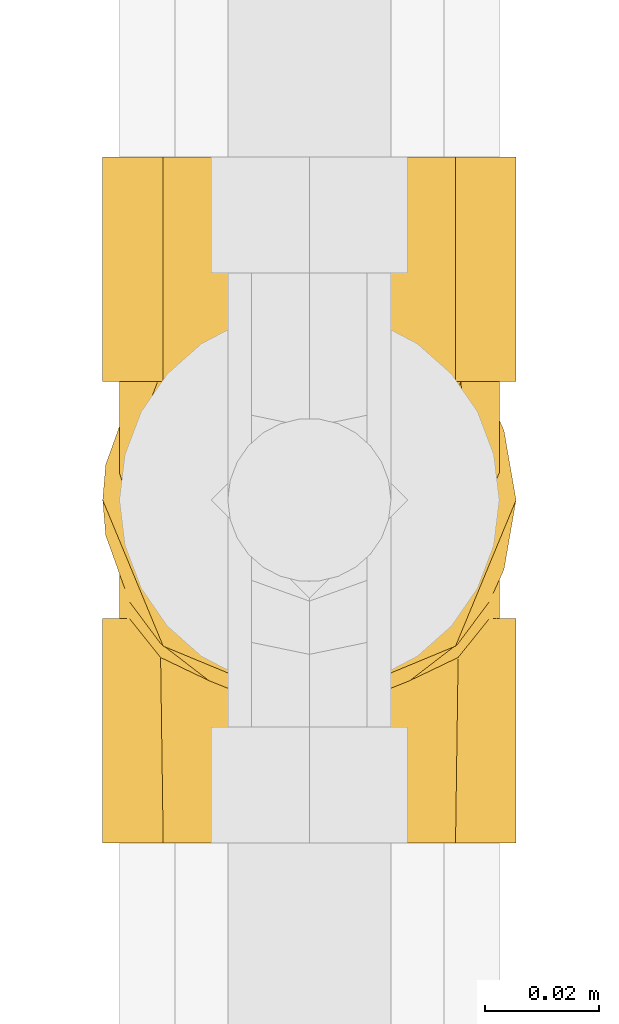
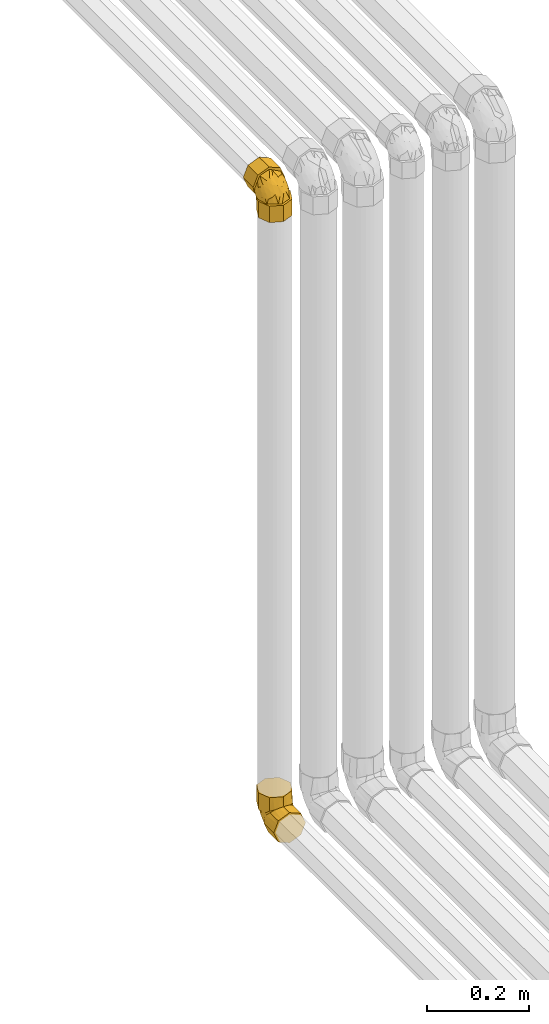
# One storey, part 231 of 652: 2 coverings.
"""IFC2X3 building model written with IfcOpenShell, lengths in millimetres."""

from ifc_helpers import new_model, entity, si_unit, converted_unit, direction, frame, origin, place, context, subcontext, project, spatial, faceted_brep, material, type_object, element, save


model = new_model("IFC2X3")

# Units and contexts
model_context = context("Model", 3, precision=0.01, world=frame((0.0, 0.0, 308426.39999999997)), true_north=direction((6.123233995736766e-17, 1.0)))
plan_context = context("Plan", 3, precision=0.01, world=frame((0.0, 0.0, 308426.39999999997)), true_north=direction((6.123233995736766e-17, 1.0)))
body_context = subcontext(model_context, "Body", "Model", "MODEL_VIEW")
ifc_project = project(units=[si_unit("LENGTHUNIT", "METRE", prefix="MILLI"), si_unit("AREAUNIT", "SQUARE_METRE"), si_unit("VOLUMEUNIT", "CUBIC_METRE"), converted_unit("PLANEANGLEUNIT", "DEGREE", entity("IfcPlaneAngleMeasure", 0.017453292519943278), si_unit("PLANEANGLEUNIT", "RADIAN"), dimensions=[0, 0, 0, 0, 0, 0, 0])], contexts=[model_context, plan_context])

# Site, building, storey
site_placement = place(None, origin())
site = spatial("IfcSite", under=ifc_project, at=site_placement, Name="Default", CompositionType="ELEMENT")
building_placement = place(site_placement, origin())
building = spatial("IfcBuilding", under=site, at=building_placement, CompositionType="ELEMENT")
storey_placement = place(building_placement, frame((0.0, 0.0, 1730.6999999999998)))
storey = spatial("IfcBuildingStorey", under=building, at=storey_placement, Name="EG_Produktion_FFB", CompositionType="ELEMENT", Elevation=1730.6999999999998)

# Coverings
ifc_material = material(Name="Dämmung - Armaflex-Schlauch")
covering_type = type_object("IfcCoveringType", Name="Rohrdämmung außen:Armaflex-Schlauch", PredefinedType="INSULATION")
covering_1_placement = place(storey_placement, frame((76442.20272776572, 51577.97760396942, 2362.2027277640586)))
element("IfcCovering", 1, at=covering_1_placement, inside=storey, type_object=covering_type, material=ifc_material, Name="Rohrdämmung außen:Armaflex-Schlauch", ObjectType="Rohrdämmung außen:Armaflex-Schlauch", PredefinedType="INSULATION", context=body_context, shape_type="Brep", body=[
    faceted_brep([(3.715783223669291, 39.259249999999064, 50.005339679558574), (6.296879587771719, 39.259249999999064, 55.6385184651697), (4.988212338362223, 39.259249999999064, 49.19061548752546), (4.509772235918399, 39.259249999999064, 42.62645720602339), (7.8789883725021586, 39.259249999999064, 34.865778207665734), (11.248204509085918, 39.259249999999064, 27.105099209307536), (13.864245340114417, 39.259249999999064, 21.079290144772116), (16.480286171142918, 39.259249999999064, 15.053481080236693), (27.138779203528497, 39.259249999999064, 11.038197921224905), (37.79727223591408, 39.259249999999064, 7.022914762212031), (44.42687530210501, 39.259249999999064, 10.459541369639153), (51.0564783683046, 39.259249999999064, 13.896167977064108), (57.68608143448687, 39.259249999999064, 17.332794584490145), (64.31568450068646, 39.259249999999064, 20.76942119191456), (66.42763594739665, 39.259249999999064, 27.588803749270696), (68.53958739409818, 39.259249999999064, 34.40818630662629), (71.08477223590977, 39.259249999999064, 42.62645720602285), (70.60633213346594, 39.259249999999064, 49.19061548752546), (69.29766488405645, 39.259249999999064, 55.6385184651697), (73.46326541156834, 39.259249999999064, 44.00386025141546), (73.99927223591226, 39.259249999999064, 37.797272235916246), (70.84694562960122, 39.259249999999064, 30.186882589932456), (68.69761208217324, 39.259249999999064, 24.99793238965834), (66.04678200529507, 39.259249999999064, 18.59826246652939), (63.39595192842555, 39.259249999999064, 12.19859254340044), (56.996282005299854, 39.259249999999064, 9.547762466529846), (50.596612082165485, 39.259249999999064, 6.896932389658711), (44.19694215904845, 39.259249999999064, 4.246102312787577), (37.79727223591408, 39.259249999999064, 1.5952722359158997), (30.186882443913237, 39.259249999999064, 4.74759890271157), (24.99793238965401, 39.259249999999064, 6.89693238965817), (18.598262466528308, 39.259249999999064, 9.547762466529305), (12.198592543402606, 39.259249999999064, 12.19859254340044), (9.547762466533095, 39.259249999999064, 18.59826246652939), (6.896932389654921, 39.259249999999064, 24.99793238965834), (4.246102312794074, 39.259249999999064, 31.397602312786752), (1.5952722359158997, 39.259249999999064, 37.797272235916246), (63.39595192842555, 0.0, 63.39595192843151), (56.996282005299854, 0.0, 66.04678200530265), (50.596612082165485, 0.0, 68.69761208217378), (44.196942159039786, 0.0, 71.34844215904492), (37.79727223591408, 0.0, 73.99927223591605), (31.39760231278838, 0.0, 71.34844215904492), (24.997932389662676, 0.0, 68.69761208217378), (18.598262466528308, 0.0, 66.04678200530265), (12.198592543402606, 0.0, 63.39595192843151), (9.547762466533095, 0.0, 56.99628200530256), (6.896932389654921, 0.0, 50.59661208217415), (4.2461023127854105, 0.0, 44.1969421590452), (1.5952722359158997, 0.0, 37.797272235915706), (4.2461023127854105, 0.0, 31.397602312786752), (6.896932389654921, 0.0, 24.99793238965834), (9.547762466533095, 0.0, 18.59826246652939), (12.198592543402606, 0.0, 12.19859254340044), (22.5764918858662, 0.0, 7.899925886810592), (30.18688206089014, 0.0, 4.747599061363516), (37.79727223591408, 0.0, 1.5952722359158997), (44.196942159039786, 0.0, 4.246102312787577), (50.596612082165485, 0.0, 6.89693238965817), (56.996282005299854, 0.0, 9.547762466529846), (63.39595192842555, 0.0, 12.19859254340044), (67.69461861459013, 0.0, 22.57649195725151), (70.84694542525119, 0.0, 30.18688209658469), (73.99927223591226, 0.0, 37.797272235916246), (71.34844215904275, 0.0, 44.1969421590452), (68.69761208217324, 0.0, 50.59661208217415), (66.04678200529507, 0.0, 56.99628200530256), (63.85372723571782, 32.46668914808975, 62.92983988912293), (47.14326463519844, 25.075941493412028, 72.7720807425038), (55.41836482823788, 28.426678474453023, 69.42134376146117), (37.79727223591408, 23.848750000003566, 73.99927223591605), (11.740817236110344, 32.46668914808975, 62.92983988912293), (28.451279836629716, 25.075941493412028, 72.7720807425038), (20.176179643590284, 28.426678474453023, 69.42134376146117), (1.5952722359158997, 60.05075000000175, 58.588772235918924), (4.7475989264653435, 67.66113984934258, 58.588772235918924), (6.896932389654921, 72.85008984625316, 58.588772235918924), (9.547762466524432, 79.24975976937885, 58.588772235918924), (12.198592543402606, 85.64942969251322, 58.588772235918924), (18.598262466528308, 88.30025976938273, 58.588772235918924), (24.997932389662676, 90.9510898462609, 58.588772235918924), (31.39760231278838, 93.60191992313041, 58.588772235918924), (37.79727223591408, 96.25274999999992, 58.588772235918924), (45.40766163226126, 93.1004234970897, 58.588772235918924), (50.596612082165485, 90.9510898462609, 58.588772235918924), (56.996282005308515, 88.30025976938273, 58.588772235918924), (63.39595192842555, 85.64942969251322, 58.588772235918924), (66.04678200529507, 79.24975976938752, 58.588772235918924), (68.69761208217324, 72.85008984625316, 58.588772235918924), (71.34844215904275, 66.45041992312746, 58.588772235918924), (73.99927223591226, 60.05075000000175, 58.588772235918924), (71.87921900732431, 47.8439605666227, 58.588772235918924), (69.29766488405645, 42.20950377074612, 58.588772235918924), (70.60633213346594, 48.65740674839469, 58.588772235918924), (71.08477223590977, 55.22156502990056, 58.588772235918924), (67.71445911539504, 62.98153911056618, 58.58877223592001), (64.34414599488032, 70.74151319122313, 58.58877223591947), (61.72519243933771, 76.77152019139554, 58.58877223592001), (59.10623888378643, 82.80152719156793, 58.588772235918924), (48.45175555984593, 86.8133173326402, 58.588772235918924), (37.79727223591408, 90.82510747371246, 58.588772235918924), (31.165885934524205, 87.3860017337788, 58.588772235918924), (24.534499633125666, 83.94689599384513, 58.58877223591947), (17.903113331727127, 80.50779025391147, 58.58877223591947), (11.271727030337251, 77.0686845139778, 58.588772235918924), (9.162676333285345, 70.25457765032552, 58.58877223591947), (7.0536256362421, 63.440470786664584, 58.58877223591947), (4.509772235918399, 55.22156502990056, 58.588772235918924), (4.988212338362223, 48.65740674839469, 58.588772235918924), (6.296879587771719, 42.20950377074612, 58.588772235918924), (2.131188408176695, 53.84468293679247, 58.588772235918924), (63.39595192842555, 85.64942969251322, 97.84802223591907), (53.01805201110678, 89.94809658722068, 97.84802223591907), (45.407662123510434, 93.10042329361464, 97.84802223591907), (37.79727223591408, 96.25274999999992, 97.84802223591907), (31.39760231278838, 93.60191992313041, 97.84802223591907), (24.997932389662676, 90.9510898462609, 97.84802223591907), (18.598262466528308, 88.30025976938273, 97.84802223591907), (12.198592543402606, 85.64942969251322, 97.84802223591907), (7.89992589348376, 75.27153036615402, 97.84802223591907), (4.74759906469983, 67.66114018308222, 97.84802223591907), (1.5952722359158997, 60.05075000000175, 97.84802223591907), (4.246102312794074, 53.65108007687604, 97.84802223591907), (6.896932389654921, 47.25141015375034, 97.84802223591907), (9.547762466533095, 40.851740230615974, 97.84802223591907), (12.198592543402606, 34.45207030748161, 97.84802223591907), (18.598262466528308, 31.801240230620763, 97.84802223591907), (24.997932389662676, 29.150410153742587, 97.84802223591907), (31.39760231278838, 26.499580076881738, 97.84802223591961), (37.79727223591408, 23.848750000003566, 97.84802223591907), (44.196942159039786, 26.499580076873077, 97.84802223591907), (50.596612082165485, 29.150410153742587, 97.84802223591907), (56.996282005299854, 31.801240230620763, 97.84802223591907), (63.39595192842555, 34.45207030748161, 97.84802223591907), (66.04678200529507, 40.851740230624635, 97.84802223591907), (68.69761208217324, 47.25141015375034, 97.84802223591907), (71.34844215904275, 53.65108007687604, 97.84802223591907), (73.99927223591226, 60.05075000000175, 97.84802223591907), (71.34844215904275, 66.45041992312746, 97.84802223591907), (68.69761208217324, 72.85008984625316, 97.84802223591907), (66.04678200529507, 79.24975976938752, 97.84802223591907), (63.85736541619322, 34.92195481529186, 65.37871062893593), (11.737179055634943, 34.92195481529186, 65.37871062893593), (68.41675007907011, 49.210183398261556, 33.374653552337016), (70.09494488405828, 54.63531521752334, 44.30542179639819), (71.08477223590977, 48.39608948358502, 49.45193275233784), (71.08477223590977, 43.978455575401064, 46.15183622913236), (71.08477223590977, 51.69618583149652, 53.86956642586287), (68.18497914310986, 65.06955237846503, 48.58098457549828), (54.93584498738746, 66.14940844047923, 26.96469372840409), (47.55789547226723, 58.59034686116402, 17.09452525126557), (46.96971299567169, 73.81910229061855, 29.785099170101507), (61.16915130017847, 49.86476535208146, 21.419266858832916), (62.09740281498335, 59.52853294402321, 28.9127065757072), (65.36649404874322, 50.389767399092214, 27.50780353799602), (53.32066831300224, 79.53115199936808, 41.8017898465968), (61.51946830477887, 72.05314656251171, 41.47102568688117), (65.29725071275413, 67.4364402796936, 42.91617535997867), (54.89550280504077, 53.71476365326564, 17.9839159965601), (45.8214932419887, 83.05038596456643, 42.158493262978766), (37.79727223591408, 71.9339064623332, 25.914115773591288), (37.79727223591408, 53.5048282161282, 15.259147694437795), (37.79727223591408, 82.58887389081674, 44.34319289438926), (67.18830204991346, 59.256858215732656, 38.21270924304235), (4.509772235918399, 48.39608948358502, 49.45193275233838), (4.509772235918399, 43.97845557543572, 46.15183622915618), (4.509772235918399, 51.69618583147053, 53.86956642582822), (5.499665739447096, 53.536207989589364, 43.206149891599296), (13.497052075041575, 68.93208500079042, 38.31563745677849), (14.077594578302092, 56.377531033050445, 25.792129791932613), (10.298384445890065, 54.931613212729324, 30.409425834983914), (20.65892246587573, 70.89302392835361, 31.709112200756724), (22.28882336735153, 56.04646412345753, 18.307811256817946), (28.624479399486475, 68.07919867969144, 24.043586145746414), (29.784989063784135, 55.729373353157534, 14.816732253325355), (7.409619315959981, 49.26685337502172, 32.77820674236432), (28.033804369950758, 80.76404119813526, 39.27595239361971), (14.417993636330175, 76.4220800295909, 47.986245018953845), (10.227732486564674, 70.3405712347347, 47.459752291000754), (20.692178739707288, 79.86412378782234, 44.14168710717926), (7.176889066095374, 64.46975673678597, 48.63619855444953), (8.406458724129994, 59.635610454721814, 38.59088627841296)], [[[0, 1, 2, 3, 4, 5, 6, 7, 8, 9, 10, 11, 12, 13, 14, 15, 16, 17, 18, 19, 20, 21, 22, 23, 24, 25, 26, 27, 28, 29, 30, 31, 32, 33, 34, 35, 36]], [[37, 38, 39, 40, 41, 42, 43, 44, 45, 46, 47, 48, 49, 50, 51, 52, 53, 54, 55, 56, 57, 58, 59, 60, 61, 62, 63, 64, 65, 66]], [[38, 37, 67]], [[66, 67, 37]], [[67, 66, 18]], [[68, 39, 69]], [[69, 39, 38]], [[69, 38, 67]], [[65, 19, 18]], [[20, 19, 63]], [[40, 70, 41]], [[19, 65, 64, 63]], [[40, 39, 68]], [[70, 40, 68]], [[66, 65, 18]], [[63, 62, 61, 60, 24, 23, 22, 21, 20]], [[24, 60, 59, 58, 57, 56, 28, 27, 26, 25]], [[29, 28, 56, 55, 54, 53, 32, 31, 30]], [[32, 53, 52, 51, 50, 49, 36, 35, 34, 33]], [[71, 1, 46]], [[0, 47, 1]], [[1, 47, 46]], [[72, 43, 42]], [[71, 46, 45]], [[44, 71, 45]], [[36, 48, 0]], [[70, 42, 41]], [[48, 47, 0]], [[73, 43, 72]], [[71, 44, 73]], [[42, 70, 72]], [[48, 36, 49]], [[44, 43, 73]], [[74, 75, 76, 77, 78, 79, 80, 81, 82, 83, 84, 85, 86, 87, 88, 89, 90, 91, 92, 93, 94, 95, 96, 97, 98, 99, 100, 101, 102, 103, 104, 105, 106, 107, 108, 109, 110]], [[111, 112, 113, 114, 115, 116, 117, 118, 119, 120, 121, 122, 123, 124, 125, 126, 127, 128, 129, 130, 131, 132, 133, 134, 135, 136, 137, 138, 139, 140]], [[114, 113, 112, 111, 86, 85, 84, 83, 82]], [[86, 111, 140, 139, 138, 137, 90, 89, 88, 87]], [[141, 92, 134]], [[91, 135, 92]], [[68, 131, 130]], [[134, 133, 141]], [[132, 141, 133]], [[136, 135, 91]], [[90, 136, 91]], [[70, 130, 129]], [[136, 90, 137]], [[69, 131, 68]], [[141, 132, 69]], [[130, 70, 68]], [[92, 135, 134]], [[132, 131, 69]], [[126, 125, 142]], [[124, 142, 125]], [[142, 124, 109]], [[72, 127, 73]], [[73, 127, 126]], [[73, 126, 142]], [[123, 110, 109]], [[74, 110, 121]], [[128, 70, 129]], [[110, 123, 122, 121]], [[128, 127, 72]], [[70, 128, 72]], [[124, 123, 109]], [[75, 74, 121, 120, 119, 118, 78, 77, 76]], [[78, 118, 117, 116, 115, 114, 82, 81, 80, 79]], [[15, 143, 144]], [[144, 145, 146, 16]], [[144, 94, 147, 145]], [[96, 95, 148]], [[149, 150, 151]], [[152, 153, 154]], [[149, 155, 156]], [[153, 156, 157]], [[152, 158, 153]], [[16, 15, 144]], [[151, 159, 155]], [[96, 148, 157]], [[151, 155, 149]], [[153, 149, 156]], [[156, 97, 157]], [[160, 159, 151]], [[98, 156, 155]], [[99, 98, 155]], [[160, 150, 161]], [[99, 159, 100]], [[159, 160, 162, 100]], [[160, 151, 150]], [[150, 11, 10]], [[150, 149, 158]], [[10, 161, 150]], [[9, 161, 10]], [[99, 155, 159]], [[143, 15, 14]], [[152, 13, 12]], [[158, 12, 11]], [[150, 158, 11]], [[153, 158, 149]], [[158, 152, 12]], [[154, 163, 143]], [[154, 143, 14]], [[154, 13, 152]], [[143, 163, 144]], [[148, 144, 163]], [[94, 144, 95]], [[154, 14, 13]], [[163, 154, 153]], [[144, 148, 95]], [[157, 148, 163]], [[153, 157, 163]], [[156, 98, 97]], [[96, 157, 97]], [[18, 17, 145]], [[67, 141, 69]], [[141, 67, 18]], [[17, 16, 146, 145]], [[147, 94, 93, 145]], [[141, 18, 92]], [[93, 92, 145]], [[92, 18, 145]], [[164, 1, 109]], [[2, 164, 165, 3]], [[164, 2, 1]], [[1, 71, 142]], [[142, 109, 1]], [[108, 107, 166, 164]], [[108, 164, 109]], [[142, 71, 73]], [[107, 106, 167]], [[168, 169, 170]], [[171, 172, 169]], [[173, 172, 171]], [[167, 164, 166, 107]], [[173, 174, 172]], [[175, 170, 5]], [[168, 171, 169]], [[167, 3, 165, 164]], [[176, 173, 171]], [[177, 168, 178]], [[5, 4, 175]], [[177, 179, 168]], [[106, 180, 167]], [[169, 6, 170]], [[160, 174, 173]], [[7, 169, 172]], [[8, 7, 172]], [[160, 176, 162]], [[8, 174, 9]], [[174, 160, 161, 9]], [[160, 173, 176]], [[176, 102, 101]], [[176, 171, 179]], [[101, 162, 176]], [[100, 162, 101]], [[8, 172, 174]], [[180, 106, 105]], [[177, 104, 103]], [[179, 103, 102]], [[176, 179, 102]], [[168, 179, 171]], [[179, 177, 103]], [[178, 181, 180]], [[178, 180, 105]], [[178, 104, 177]], [[180, 181, 167]], [[175, 167, 181]], [[3, 167, 4]], [[178, 105, 104]], [[181, 178, 168]], [[167, 175, 4]], [[170, 175, 181]], [[168, 170, 181]], [[169, 7, 6]], [[5, 170, 6]]]),
])
covering_2_placement = place(storey_placement, frame((76442.20272776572, 51600.23108173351, 3839.949249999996)))
element("IfcCovering", 2, at=covering_2_placement, inside=storey, type_object=covering_type, material=ifc_material, Name="Rohrdämmung außen:Armaflex-Schlauch", ObjectType="Rohrdämmung außen:Armaflex-Schlauch", PredefinedType="INSULATION", context=body_context, shape_type="Brep", body=[
    faceted_brep([(71.87876124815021, 50.00533967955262, 39.25925000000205), (69.29766488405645, 55.6385184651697, 39.25925000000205), (70.60633213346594, 49.190615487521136, 39.25925000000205), (71.08477223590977, 42.62645720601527, 39.25925000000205), (67.71555609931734, 34.8657782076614, 39.25925000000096), (64.34633996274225, 27.105099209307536, 39.25925000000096), (61.730299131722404, 21.079290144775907, 39.25925000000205), (59.11425830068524, 15.053481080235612, 39.25925000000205), (48.455765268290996, 11.03819792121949, 39.25925000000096), (37.79727223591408, 7.022914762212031, 39.25925000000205), (31.16766916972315, 10.459541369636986, 39.25925000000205), (24.53806610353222, 13.89616797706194, 39.25925000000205), (17.908463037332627, 17.332794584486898, 39.25925000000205), (11.278859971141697, 20.769421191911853, 39.25925000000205), (9.166908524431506, 27.588803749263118, 39.25925000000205), (7.054957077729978, 34.408186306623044, 39.25925000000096), (4.509772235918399, 42.62645720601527, 39.25925000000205), (4.988212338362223, 49.190615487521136, 39.25925000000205), (6.296879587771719, 55.6385184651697, 39.25925000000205), (2.1312790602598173, 44.003860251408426, 39.25925000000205), (1.5952722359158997, 37.79727223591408, 39.25925000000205), (4.747598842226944, 30.186882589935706, 39.25925000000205), (6.896932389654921, 24.997932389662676, 39.25925000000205), (9.547762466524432, 18.598262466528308, 39.25925000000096), (12.198592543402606, 12.198592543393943, 39.25925000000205), (18.598262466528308, 9.547762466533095, 39.25925000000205), (24.997932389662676, 6.896932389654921, 39.25925000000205), (31.39760231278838, 4.246102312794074, 39.25925000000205), (37.79727223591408, 1.5952722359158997, 39.25925000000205), (45.407662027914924, 4.74759890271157, 39.25925000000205), (50.596612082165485, 6.896932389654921, 39.25925000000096), (56.996282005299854, 9.547762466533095, 39.25925000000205), (63.39595192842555, 12.198592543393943, 39.25925000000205), (66.04678200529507, 18.598262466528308, 39.25925000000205), (68.69761208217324, 24.997932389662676, 39.25925000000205), (71.34844215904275, 31.39760231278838, 39.25925000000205), (73.99927223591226, 37.79727223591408, 39.25925000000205), (12.198592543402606, 63.39595192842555, 0.0), (18.598262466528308, 66.04678200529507, 0.0), (24.997932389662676, 68.69761208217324, 0.0), (31.39760231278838, 71.34844215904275, 0.0), (37.79727223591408, 73.99927223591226, 0.0), (44.196942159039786, 71.3484421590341, 0.0), (50.596612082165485, 68.69761208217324, 0.0), (56.996282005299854, 66.04678200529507, 0.0), (63.39595192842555, 63.39595192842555, 0.0), (66.04678200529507, 56.996282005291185, 0.0), (68.69761208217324, 50.596612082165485, 0.0), (71.34844215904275, 44.196942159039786, 0.0), (73.99927223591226, 37.79727223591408, 0.0), (71.3484421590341, 31.39760231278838, 0.0), (68.69761208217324, 24.997932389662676, 0.0), (66.04678200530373, 18.598262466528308, 0.0), (63.39595192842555, 12.198592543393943, 0.0), (53.01805258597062, 7.899925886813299, 0.0), (45.40766241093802, 4.747599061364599, 0.0), (37.79727223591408, 1.5952722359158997, 0.0), (31.39760231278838, 4.2461023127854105, 0.0), (24.99793238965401, 6.896932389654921, 0.0), (18.598262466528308, 9.547762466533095, 0.0), (12.198592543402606, 12.198592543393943, 0.0), (7.899925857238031, 22.576491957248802, 0.0), (4.7475990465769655, 30.186882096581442, 0.0), (1.5952722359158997, 37.79727223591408, 0.0), (4.246102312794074, 44.196942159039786, 0.0), (6.896932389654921, 50.596612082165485, 0.0), (9.547762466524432, 56.996282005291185, 0.0), (11.740817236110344, 62.92983988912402, 32.466689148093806), (28.451279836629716, 72.7720807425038, 25.07594149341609), (20.176179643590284, 69.42134376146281, 28.42667847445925), (37.79727223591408, 73.99927223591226, 23.848750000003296), (63.85372723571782, 62.92983988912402, 32.466689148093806), (47.14326463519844, 72.7720807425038, 25.07594149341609), (55.41836482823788, 69.42134376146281, 28.42667847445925), (73.99927223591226, 58.588772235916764, 60.05075000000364), (70.84694554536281, 58.588772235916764, 67.66113984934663), (68.69761208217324, 58.588772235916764, 72.85008984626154), (66.04678200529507, 58.588772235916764, 79.24975976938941), (63.39595192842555, 58.588772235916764, 85.64942969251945), (56.996282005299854, 58.588772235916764, 88.30025976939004), (50.596612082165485, 58.588772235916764, 90.95108984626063), (44.196942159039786, 58.588772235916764, 93.60191992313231), (37.79727223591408, 58.588772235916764, 96.25275000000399), (30.18688283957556, 58.588772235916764, 93.10042349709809), (24.997932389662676, 58.588772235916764, 90.95108984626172), (18.598262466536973, 58.588772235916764, 88.30025976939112), (12.198592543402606, 58.588772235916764, 85.64942969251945), (9.547762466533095, 58.588772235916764, 79.2497597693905), (6.896932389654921, 58.588772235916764, 72.85008984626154), (4.246102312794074, 58.588772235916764, 66.4504199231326), (1.5952722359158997, 58.588772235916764, 60.05075000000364), (3.7153254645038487, 58.588772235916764, 47.84396056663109), (6.296879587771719, 58.588772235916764, 42.209503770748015), (4.988212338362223, 58.588772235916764, 48.65740674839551), (4.509772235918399, 58.588772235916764, 55.22156502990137), (7.88008535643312, 58.588772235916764, 62.98153911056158), (11.250398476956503, 58.588772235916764, 70.74151319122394), (13.869352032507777, 58.588772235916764, 76.77152019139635), (16.488305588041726, 58.588772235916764, 82.80152719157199), (27.142788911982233, 58.588772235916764, 86.81331733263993), (37.79727223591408, 58.588772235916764, 90.82510747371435), (44.42865853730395, 58.588772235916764, 87.38600173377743), (51.06004483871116, 58.588772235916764, 83.94689599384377), (57.69143114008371, 58.588772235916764, 80.5077902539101), (64.32281744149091, 58.588772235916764, 77.06868451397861), (66.43186813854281, 58.588772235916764, 70.25457765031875), (68.54091883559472, 58.588772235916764, 63.440470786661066), (71.08477223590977, 58.588772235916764, 55.22156502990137), (70.60633213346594, 58.588772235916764, 48.65740674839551), (69.29766488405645, 58.588772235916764, 42.209503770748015), (73.46335606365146, 58.588772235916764, 53.8446829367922), (4.2461023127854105, 97.84802223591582, 66.4504199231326), (6.896932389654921, 97.84802223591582, 72.85008984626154), (9.547762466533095, 97.84802223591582, 79.2497597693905), (12.198592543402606, 97.84802223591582, 85.64942969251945), (22.576492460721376, 97.84802223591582, 89.94809658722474), (30.186882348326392, 97.84802223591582, 93.10042329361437), (37.79727223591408, 97.84802223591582, 96.25275000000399), (44.196942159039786, 97.84802223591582, 93.60191992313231), (50.596612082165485, 97.84802223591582, 90.95108984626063), (56.996282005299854, 97.84802223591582, 88.30025976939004), (63.39595192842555, 97.84802223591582, 85.64942969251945), (67.6946185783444, 97.84802223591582, 75.27153036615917), (70.84694540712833, 97.84802223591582, 67.66114018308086), (73.99927223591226, 97.84802223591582, 60.05075000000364), (71.34844215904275, 97.84802223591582, 53.65108007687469), (68.69761208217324, 97.84802223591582, 47.25141015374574), (66.04678200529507, 97.84802223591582, 40.85174023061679), (63.39595192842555, 97.84802223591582, 34.45207030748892), (56.996282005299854, 97.84802223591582, 31.801240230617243), (50.596612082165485, 97.84802223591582, 29.150410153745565), (44.19694215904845, 97.84802223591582, 26.49958007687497), (37.79727223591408, 97.84802223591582, 23.84875000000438), (31.39760231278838, 97.84802223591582, 26.49958007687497), (24.99793238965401, 97.84802223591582, 29.150410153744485), (18.598262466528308, 97.84802223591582, 31.80124023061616), (12.198592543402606, 97.84802223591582, 34.45207030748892), (9.547762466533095, 97.84802223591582, 40.85174023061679), (6.896932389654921, 97.84802223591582, 47.25141015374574), (4.2461023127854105, 97.84802223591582, 53.65108007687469), (1.5952722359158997, 97.84802223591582, 60.05075000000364), (11.737179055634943, 65.37871062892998, 34.92195481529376), (63.85736541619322, 65.37871062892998, 34.92195481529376), (7.177794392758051, 33.37465355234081, 49.210183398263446), (5.499599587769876, 44.30542179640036, 54.6353152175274), (4.509772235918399, 49.45193275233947, 48.39608948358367), (4.509772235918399, 46.151836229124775, 43.978455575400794), (4.509772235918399, 53.869566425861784, 51.69618583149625), (7.409565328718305, 48.580984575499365, 65.069552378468), (20.658699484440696, 26.964693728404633, 66.14940844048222), (28.03664899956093, 17.094525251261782, 58.590346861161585), (28.624831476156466, 29.78509917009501, 73.81910229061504), (14.425393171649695, 21.419266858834, 49.86476535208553), (13.497141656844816, 28.912706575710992, 59.528532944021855), (10.228050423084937, 27.507803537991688, 50.38976739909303), (22.27387615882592, 41.80178984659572, 79.53115199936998), (14.075076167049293, 41.47102568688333, 72.05314656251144), (10.297293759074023, 42.91617535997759, 67.43644027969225), (20.69904166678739, 17.983915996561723, 53.71476365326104), (29.773051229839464, 42.15849326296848, 83.05038596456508), (37.79727223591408, 25.914115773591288, 71.93390646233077), (37.79727223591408, 15.259147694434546, 53.50482821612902), (37.79727223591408, 44.343192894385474, 82.5888738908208), (8.406242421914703, 38.212709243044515, 59.25685821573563), (71.08477223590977, 49.45193275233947, 48.39608948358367), (71.08477223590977, 46.15183622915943, 43.97845557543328), (71.08477223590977, 53.86956642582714, 51.69618583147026), (70.09487873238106, 43.20614989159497, 53.53620798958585), (62.097492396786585, 38.3156374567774, 68.93208500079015), (61.51694989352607, 25.792129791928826, 56.37753103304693), (65.2961600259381, 30.40942583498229, 54.93161321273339), (54.93562200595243, 31.709112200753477, 70.89302392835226), (53.30572110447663, 18.307811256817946, 56.04646412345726), (46.97006507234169, 24.043586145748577, 68.07919867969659), (45.809555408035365, 14.81673225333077, 55.72937335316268), (68.18492515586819, 32.77820674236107, 49.266853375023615), (47.5607401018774, 39.27595239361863, 80.76404119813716), (61.176550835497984, 47.98624501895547, 76.42208002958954), (65.36681198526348, 47.459752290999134, 70.34057123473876), (54.90236573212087, 44.14168710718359, 79.86412378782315), (68.41765540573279, 48.6361985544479, 64.46975673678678), (67.18808574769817, 38.59088627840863, 59.63561045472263)], [[[0, 1, 2, 3, 4, 5, 6, 7, 8, 9, 10, 11, 12, 13, 14, 15, 16, 17, 18, 19, 20, 21, 22, 23, 24, 25, 26, 27, 28, 29, 30, 31, 32, 33, 34, 35, 36]], [[37, 38, 39, 40, 41, 42, 43, 44, 45, 46, 47, 48, 49, 50, 51, 52, 53, 54, 55, 56, 57, 58, 59, 60, 61, 62, 63, 64, 65, 66]], [[38, 37, 67]], [[66, 67, 37]], [[67, 66, 18]], [[68, 39, 69]], [[69, 39, 38]], [[69, 38, 67]], [[65, 19, 18]], [[20, 19, 63]], [[40, 70, 41]], [[19, 65, 64, 63]], [[40, 39, 68]], [[70, 40, 68]], [[66, 65, 18]], [[63, 62, 61, 60, 24, 23, 22, 21, 20]], [[24, 60, 59, 58, 57, 56, 28, 27, 26, 25]], [[29, 28, 56, 55, 54, 53, 32, 31, 30]], [[32, 53, 52, 51, 50, 49, 36, 35, 34, 33]], [[71, 1, 46]], [[0, 47, 1]], [[1, 47, 46]], [[72, 43, 42]], [[71, 46, 45]], [[44, 71, 45]], [[36, 48, 0]], [[70, 42, 41]], [[48, 47, 0]], [[73, 43, 72]], [[71, 44, 73]], [[42, 70, 72]], [[48, 36, 49]], [[44, 43, 73]], [[74, 75, 76, 77, 78, 79, 80, 81, 82, 83, 84, 85, 86, 87, 88, 89, 90, 91, 92, 93, 94, 95, 96, 97, 98, 99, 100, 101, 102, 103, 104, 105, 106, 107, 108, 109, 110]], [[111, 112, 113, 114, 115, 116, 117, 118, 119, 120, 121, 122, 123, 124, 125, 126, 127, 128, 129, 130, 131, 132, 133, 134, 135, 136, 137, 138, 139, 140]], [[117, 116, 115, 114, 86, 85, 84, 83, 82]], [[86, 114, 113, 112, 111, 140, 90, 89, 88, 87]], [[141, 92, 137]], [[91, 138, 92]], [[68, 134, 133]], [[137, 136, 141]], [[135, 141, 136]], [[139, 138, 91]], [[90, 139, 91]], [[70, 133, 132]], [[139, 90, 140]], [[69, 134, 68]], [[141, 135, 69]], [[133, 70, 68]], [[92, 138, 137]], [[135, 134, 69]], [[129, 128, 142]], [[127, 142, 128]], [[142, 127, 109]], [[72, 130, 73]], [[73, 130, 129]], [[73, 129, 142]], [[126, 110, 109]], [[74, 110, 124]], [[131, 70, 132]], [[110, 126, 125, 124]], [[131, 130, 72]], [[70, 131, 72]], [[127, 126, 109]], [[75, 74, 124, 123, 122, 121, 78, 77, 76]], [[78, 121, 120, 119, 118, 117, 82, 81, 80, 79]], [[15, 143, 144]], [[144, 145, 146, 16]], [[144, 94, 147, 145]], [[96, 95, 148]], [[149, 150, 151]], [[152, 153, 154]], [[149, 155, 156]], [[153, 156, 157]], [[152, 158, 153]], [[16, 15, 144]], [[151, 159, 155]], [[96, 148, 157]], [[151, 155, 149]], [[153, 149, 156]], [[156, 97, 157]], [[160, 159, 151]], [[98, 156, 155]], [[99, 98, 155]], [[160, 150, 161]], [[99, 159, 100]], [[159, 160, 162, 100]], [[160, 151, 150]], [[150, 11, 10]], [[150, 149, 158]], [[10, 161, 150]], [[9, 161, 10]], [[99, 155, 159]], [[143, 15, 14]], [[152, 13, 12]], [[158, 12, 11]], [[150, 158, 11]], [[153, 158, 149]], [[158, 152, 12]], [[154, 163, 143]], [[154, 143, 14]], [[154, 13, 152]], [[143, 163, 144]], [[148, 144, 163]], [[94, 144, 95]], [[154, 14, 13]], [[163, 154, 153]], [[144, 148, 95]], [[157, 148, 163]], [[153, 157, 163]], [[156, 98, 97]], [[96, 157, 97]], [[18, 17, 145]], [[67, 141, 69]], [[141, 67, 18]], [[17, 16, 146, 145]], [[147, 94, 93, 145]], [[141, 18, 92]], [[93, 92, 145]], [[92, 18, 145]], [[164, 1, 109]], [[2, 164, 165, 3]], [[164, 2, 1]], [[1, 71, 142]], [[142, 109, 1]], [[108, 107, 166, 164]], [[108, 164, 109]], [[142, 71, 73]], [[107, 106, 167]], [[168, 169, 170]], [[171, 172, 169]], [[173, 172, 171]], [[167, 164, 166, 107]], [[173, 174, 172]], [[175, 170, 5]], [[168, 171, 169]], [[167, 3, 165, 164]], [[176, 173, 171]], [[177, 168, 178]], [[5, 4, 175]], [[177, 179, 168]], [[106, 180, 167]], [[169, 6, 170]], [[160, 174, 173]], [[7, 169, 172]], [[8, 7, 172]], [[160, 176, 162]], [[8, 174, 9]], [[174, 160, 161, 9]], [[160, 173, 176]], [[176, 102, 101]], [[176, 171, 179]], [[101, 162, 176]], [[100, 162, 101]], [[8, 172, 174]], [[180, 106, 105]], [[177, 104, 103]], [[179, 103, 102]], [[176, 179, 102]], [[168, 179, 171]], [[179, 177, 103]], [[178, 181, 180]], [[178, 180, 105]], [[178, 104, 177]], [[180, 181, 167]], [[175, 167, 181]], [[3, 167, 4]], [[178, 105, 104]], [[181, 178, 168]], [[167, 175, 4]], [[170, 175, 181]], [[168, 170, 181]], [[169, 7, 6]], [[5, 170, 6]]]),
])

save(model, "model.ifc")
